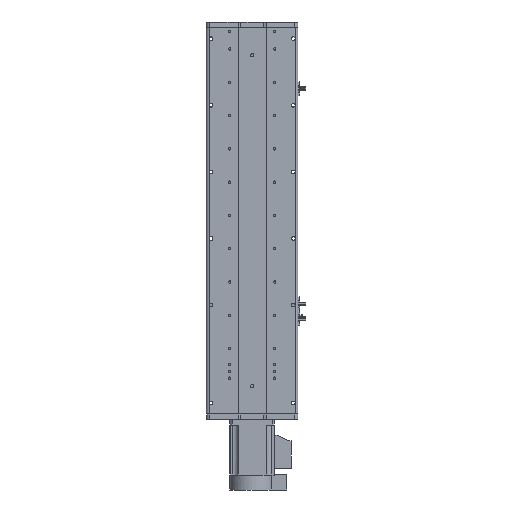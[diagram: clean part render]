
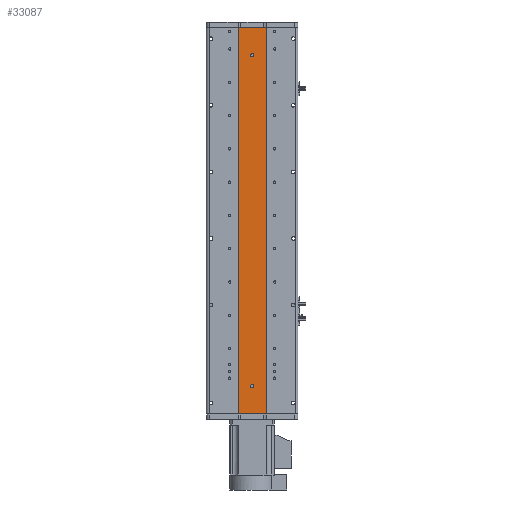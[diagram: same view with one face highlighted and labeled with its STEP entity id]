
A CAD part, front view. The second image highlights one B-rep face of the part: STEP entity #33087.
In plain terms, the highlighted planar face has unit normal (0, -1, 0).
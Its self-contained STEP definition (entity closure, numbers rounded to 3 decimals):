
#484 = EDGE_CURVE ( 'NONE', #35105, #19867, #27801, .T. ) ;
#956 = EDGE_CURVE ( 'NONE', #24035, #29012, #29071, .T. ) ;
#1294 = CARTESIAN_POINT ( 'NONE',  ( 25., 1., 348. ) ) ;
#2044 = CARTESIAN_POINT ( 'NONE',  ( 25., 1., 348. ) ) ;
#2124 = CARTESIAN_POINT ( 'NONE',  ( -25., 1., 348. ) ) ;
#2863 = CARTESIAN_POINT ( 'NONE',  ( 25., 1., -348. ) ) ;
#3656 = FACE_OUTER_BOUND ( 'NONE', #26037, .T. ) ;
#4297 = CARTESIAN_POINT ( 'NONE',  ( 0., 1., -298. ) ) ;
#4556 = CARTESIAN_POINT ( 'NONE',  ( 0., 1., 298. ) ) ;
#4578 = ORIENTED_EDGE ( 'NONE', *, *, #956, .F. ) ;
#4602 = CARTESIAN_POINT ( 'NONE',  ( 25., 1., 348. ) ) ;
#5012 = ORIENTED_EDGE ( 'NONE', *, *, #31218, .F. ) ;
#5041 = DIRECTION ( 'NONE',  ( 0., 0., -1. ) ) ;
#5674 = VECTOR ( 'NONE', #21383, 1000. ) ;
#5686 = LINE ( 'NONE', #4602, #35422 ) ;
#6648 = CARTESIAN_POINT ( 'NONE',  ( 25., 1., -348. ) ) ;
#7219 = DIRECTION ( 'NONE',  ( 0., 0., -1. ) ) ;
#7487 = DIRECTION ( 'NONE',  ( 0., 0., -1. ) ) ;
#7531 = DIRECTION ( 'NONE',  ( 0., 0., -1. ) ) ;
#7552 = EDGE_CURVE ( 'NONE', #35105, #24129, #29694, .T. ) ;
#7609 = VECTOR ( 'NONE', #5041, 1000. ) ;
#7887 = DIRECTION ( 'NONE',  ( 0., 0., 1. ) ) ;
#8000 = CARTESIAN_POINT ( 'NONE',  ( 0., 1., -301. ) ) ;
#8888 = EDGE_LOOP ( 'NONE', ( #16010, #18116 ) ) ;
#11386 = FACE_BOUND ( 'NONE', #8888, .T. ) ;
#11560 = VERTEX_POINT ( 'NONE', #24514 ) ;
#13323 = ORIENTED_EDGE ( 'NONE', *, *, #26932, .F. ) ;
#14339 = DIRECTION ( 'NONE',  ( 0., -1., 0. ) ) ;
#15098 = CARTESIAN_POINT ( 'NONE',  ( 0., 1., -298. ) ) ;
#15166 = VECTOR ( 'NONE', #24042, 1000. ) ;
#15722 = CARTESIAN_POINT ( 'NONE',  ( 0., 1., 301. ) ) ;
#16010 = ORIENTED_EDGE ( 'NONE', *, *, #28041, .F. ) ;
#16016 = VERTEX_POINT ( 'NONE', #2863 ) ;
#17227 = EDGE_CURVE ( 'NONE', #24129, #16016, #23811, .T. ) ;
#17346 = AXIS2_PLACEMENT_3D ( 'NONE', #31618, #14339, #34537 ) ;
#18023 = DIRECTION ( 'NONE',  ( 0., 0., -1. ) ) ;
#18092 = FACE_BOUND ( 'NONE', #29587, .T. ) ;
#18116 = ORIENTED_EDGE ( 'NONE', *, *, #36845, .F. ) ;
#19218 = DIRECTION ( 'NONE',  ( 0., 1., 0. ) ) ;
#19867 = VERTEX_POINT ( 'NONE', #36354 ) ;
#21383 = DIRECTION ( 'NONE',  ( 1., 0., 0. ) ) ;
#23811 = LINE ( 'NONE', #6648, #15166 ) ;
#24035 = VERTEX_POINT ( 'NONE', #8000 ) ;
#24042 = DIRECTION ( 'NONE',  ( 1., 0., 0. ) ) ;
#24129 = VERTEX_POINT ( 'NONE', #28418 ) ;
#24380 = CARTESIAN_POINT ( 'NONE',  ( 0., 1., -295. ) ) ;
#24505 = DIRECTION ( 'NONE',  ( 0., -1., 0. ) ) ;
#24514 = CARTESIAN_POINT ( 'NONE',  ( 0., 1., 295. ) ) ;
#24780 = DIRECTION ( 'NONE',  ( 0., -1., 0. ) ) ;
#25189 = PLANE ( 'NONE',  #31112 ) ;
#25249 = AXIS2_PLACEMENT_3D ( 'NONE', #4556, #24780, #7487 ) ;
#25370 = VERTEX_POINT ( 'NONE', #15722 ) ;
#26037 = EDGE_LOOP ( 'NONE', ( #36602, #13323, #32330, #35889 ) ) ;
#26932 = EDGE_CURVE ( 'NONE', #19867, #16016, #5686, .T. ) ;
#26936 = CARTESIAN_POINT ( 'NONE',  ( -25., 1., 348. ) ) ;
#27330 = CIRCLE ( 'NONE', #32427, 3. ) ;
#27801 = LINE ( 'NONE', #1294, #5674 ) ;
#28041 = EDGE_CURVE ( 'NONE', #11560, #25370, #35286, .T. ) ;
#28418 = CARTESIAN_POINT ( 'NONE',  ( -25., 1., -348. ) ) ;
#29012 = VERTEX_POINT ( 'NONE', #24380 ) ;
#29071 = CIRCLE ( 'NONE', #30322, 3. ) ;
#29587 = EDGE_LOOP ( 'NONE', ( #4578, #5012 ) ) ;
#29694 = LINE ( 'NONE', #2124, #7609 ) ;
#30322 = AXIS2_PLACEMENT_3D ( 'NONE', #15098, #35311, #18023 ) ;
#30930 = CIRCLE ( 'NONE', #25249, 3. ) ;
#31112 = AXIS2_PLACEMENT_3D ( 'NONE', #2044, #19218, #7887 ) ;
#31218 = EDGE_CURVE ( 'NONE', #29012, #24035, #27330, .T. ) ;
#31618 = CARTESIAN_POINT ( 'NONE',  ( 0., 1., 298. ) ) ;
#32330 = ORIENTED_EDGE ( 'NONE', *, *, #484, .F. ) ;
#32427 = AXIS2_PLACEMENT_3D ( 'NONE', #4297, #24505, #7219 ) ;
#33087 = ADVANCED_FACE ( 'NONE', ( #11386, #18092, #3656 ), #25189, .F. ) ;
#34537 = DIRECTION ( 'NONE',  ( 0., 0., -1. ) ) ;
#35105 = VERTEX_POINT ( 'NONE', #26936 ) ;
#35286 = CIRCLE ( 'NONE', #17346, 3. ) ;
#35311 = DIRECTION ( 'NONE',  ( 0., -1., 0. ) ) ;
#35422 = VECTOR ( 'NONE', #7531, 1000. ) ;
#35889 = ORIENTED_EDGE ( 'NONE', *, *, #7552, .T. ) ;
#36354 = CARTESIAN_POINT ( 'NONE',  ( 25., 1., 348. ) ) ;
#36602 = ORIENTED_EDGE ( 'NONE', *, *, #17227, .T. ) ;
#36845 = EDGE_CURVE ( 'NONE', #25370, #11560, #30930, .T. ) ;
